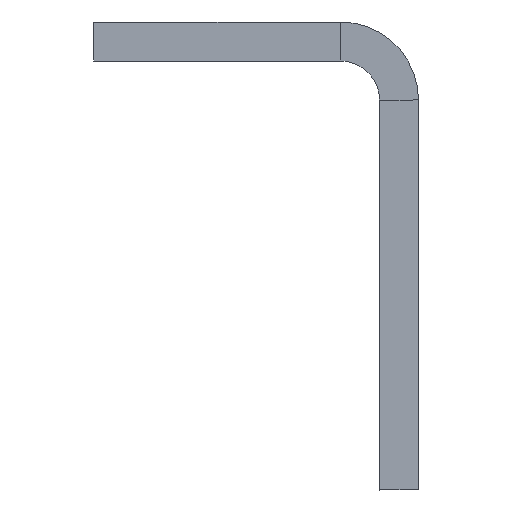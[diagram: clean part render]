
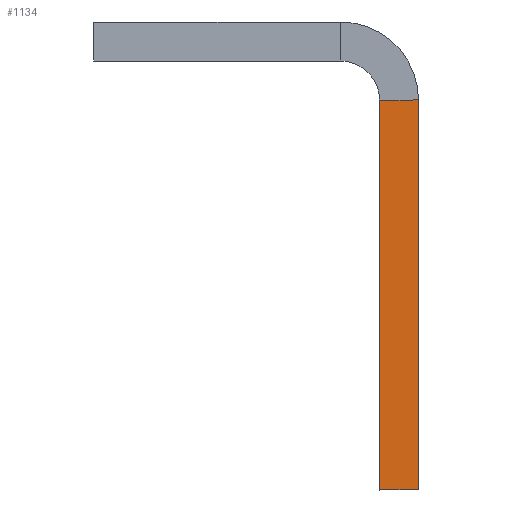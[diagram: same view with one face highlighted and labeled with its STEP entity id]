
A CAD part, left-side view. The second image highlights one B-rep face of the part: STEP entity #1134.
In plain terms, the highlighted planar face has unit normal (-1, 0, 0).
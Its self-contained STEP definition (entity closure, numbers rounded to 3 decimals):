
#124 = PLANE ( 'NONE',  #256 ) ;
#142 = DIRECTION ( 'NONE',  ( -1., 0., 0. ) ) ;
#249 = EDGE_LOOP ( 'NONE', ( #332, #406, #635, #1965 ) ) ;
#256 = AXIS2_PLACEMENT_3D ( 'NONE', #3692, #142, #2554 ) ;
#332 = ORIENTED_EDGE ( 'NONE', *, *, #556, .F. ) ;
#406 = ORIENTED_EDGE ( 'NONE', *, *, #2332, .T. ) ;
#452 = DIRECTION ( 'NONE',  ( 0., 0., -1. ) ) ;
#556 = EDGE_CURVE ( 'NONE', #1657, #585, #2939, .T. ) ;
#585 = VERTEX_POINT ( 'NONE', #2258 ) ;
#635 = ORIENTED_EDGE ( 'NONE', *, *, #3696, .T. ) ;
#675 = VECTOR ( 'NONE', #2824, 1000. ) ;
#713 = VECTOR ( 'NONE', #3098, 1000. ) ;
#757 = FACE_OUTER_BOUND ( 'NONE', #249, .T. ) ;
#1021 = LINE ( 'NONE', #2229, #3756 ) ;
#1134 = ADVANCED_FACE ( 'NONE', ( #757 ), #124, .T. ) ;
#1180 = CARTESIAN_POINT ( 'NONE',  ( -620.5, 3., -36. ) ) ;
#1199 = CARTESIAN_POINT ( 'NONE',  ( -620.5, 3., -6. ) ) ;
#1507 = VECTOR ( 'NONE', #452, 1000. ) ;
#1618 = CARTESIAN_POINT ( 'NONE',  ( -620.5, 3., 0. ) ) ;
#1656 = CARTESIAN_POINT ( 'NONE',  ( -620.5, 0., 0. ) ) ;
#1657 = VERTEX_POINT ( 'NONE', #2241 ) ;
#1884 = LINE ( 'NONE', #1928, #713 ) ;
#1906 = DIRECTION ( 'NONE',  ( 0., 1., 0. ) ) ;
#1928 = CARTESIAN_POINT ( 'NONE',  ( -620.5, 3., -36. ) ) ;
#1965 = ORIENTED_EDGE ( 'NONE', *, *, #2331, .T. ) ;
#2168 = VERTEX_POINT ( 'NONE', #1199 ) ;
#2229 = CARTESIAN_POINT ( 'NONE',  ( -620.5, 0., -6. ) ) ;
#2241 = CARTESIAN_POINT ( 'NONE',  ( -620.5, 0., -6. ) ) ;
#2258 = CARTESIAN_POINT ( 'NONE',  ( -620.5, 0., -36. ) ) ;
#2331 = EDGE_CURVE ( 'NONE', #2433, #585, #1884, .T. ) ;
#2332 = EDGE_CURVE ( 'NONE', #1657, #2168, #1021, .T. ) ;
#2433 = VERTEX_POINT ( 'NONE', #1180 ) ;
#2554 = DIRECTION ( 'NONE',  ( 0., 0., 1. ) ) ;
#2794 = LINE ( 'NONE', #1618, #675 ) ;
#2824 = DIRECTION ( 'NONE',  ( 0., 0., -1. ) ) ;
#2939 = LINE ( 'NONE', #1656, #1507 ) ;
#3098 = DIRECTION ( 'NONE',  ( 0., -1., 0. ) ) ;
#3692 = CARTESIAN_POINT ( 'NONE',  ( -620.5, 6., -3. ) ) ;
#3696 = EDGE_CURVE ( 'NONE', #2168, #2433, #2794, .T. ) ;
#3756 = VECTOR ( 'NONE', #1906, 1000. ) ;
